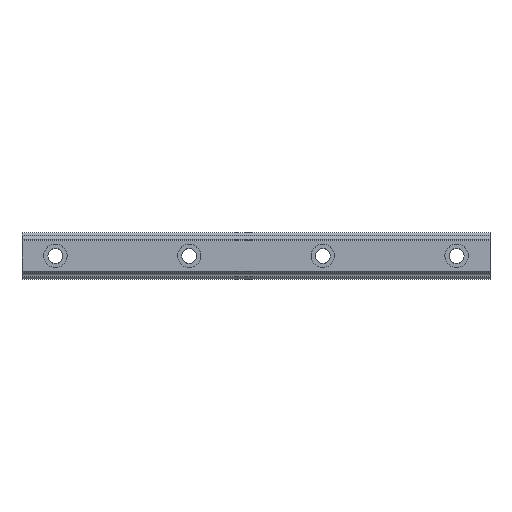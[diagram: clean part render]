
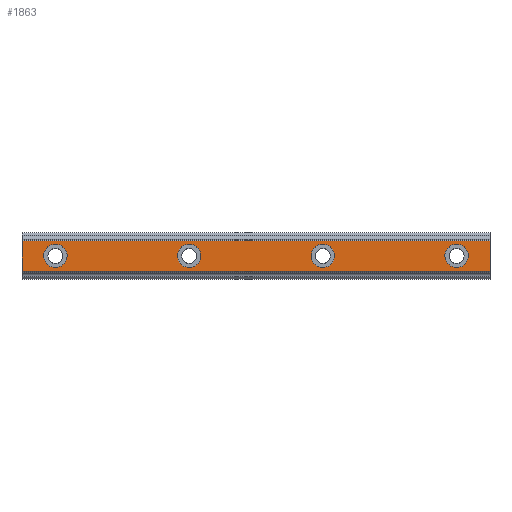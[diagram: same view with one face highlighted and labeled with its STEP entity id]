
A CAD part, top view. The second image highlights one B-rep face of the part: STEP entity #1863.
In plain terms, the highlighted planar face has unit normal (0, 0, 1).
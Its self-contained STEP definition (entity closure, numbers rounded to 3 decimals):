
#1528=CARTESIAN_POINT('POINT115',(260.,-9.21,
   26.));
#1529=VERTEX_POINT('VERTEX115',#1528);
#1536=CARTESIAN_POINT('POINT116',(-20.,-9.21,
   26.));
#1537=VERTEX_POINT('VERTEX116',#1536);
#1538=CARTESIAN_POINT('POS161',(-20.,-9.21,
   26.));
#1539=DIRECTION('DIR232',(1.,0.,0.));
#1540=VECTOR('VEC90',#1539,1.);
#1541=LINE('STRAIGHT90',#1538,#1540);
#1542=EDGE_CURVE('EDGE168',#1537,#1529,#1541,.T.);
#1574=CARTESIAN_POINT('POINT117',(-20.,9.21,
   26.));
#1575=VERTEX_POINT('VERTEX117',#1574);
#1576=CARTESIAN_POINT('POS164',(-20.,-9.21,
   26.));
#1577=DIRECTION('DIR236',(0.,1.,0.));
#1578=VECTOR('VEC92',#1577,1.);
#1579=LINE('STRAIGHT92',#1576,#1578);
#1580=EDGE_CURVE('EDGE170',#1537,#1575,#1579,.T.);
#1611=CARTESIAN_POINT('POINT118',(260.,9.21,
   26.));
#1612=VERTEX_POINT('VERTEX118',#1611);
#1621=CARTESIAN_POINT('POS168',(-20.,9.21,
   26.));
#1622=DIRECTION('DIR241',(1.,0.,0.));
#1623=VECTOR('VEC95',#1622,1.);
#1624=LINE('STRAIGHT95',#1621,#1623);
#1625=EDGE_CURVE('EDGE173',#1575,#1612,#1624,.T.);
#1653=CARTESIAN_POINT('POS170',(260.,-9.21,
   26.));
#1654=DIRECTION('DIR244',(0.,1.,0.));
#1655=VECTOR('VEC96',#1654,1.);
#1656=LINE('STRAIGHT96',#1653,#1655);
#1657=EDGE_CURVE('EDGE174',#1529,#1612,#1656,.T.);
#1680=CARTESIAN_POINT('POINT119',(87.,0.,
   26.));
#1681=VERTEX_POINT('VERTEX119',#1680);
#1689=CARTESIAN_POINT('POINT120',(73.,0.,
   26.));
#1690=VERTEX_POINT('VERTEX120',#1689);
#1697=CARTESIAN_POINT('POS174',(80.,0.,26.))
   ;
#1698=DIRECTION('DIR249',(0.,0.,-1.));
#1699=DIRECTION('DIR250',(1.,0.,0.));
#1700=AXIS2_PLACEMENT_3D('AXIS76',#1697,#1698,#1699);
#1701=CIRCLE('ELLIPSE36',#1700,7.);
#1702=EDGE_CURVE('EDGE177',#1681,#1690,#1701,.T.);
#1713=EDGE_CURVE('EDGE178',#1690,#1681,#1701,.T.);
#1720=CARTESIAN_POINT('POINT121',(167.,0.,
   26.));
#1721=VERTEX_POINT('VERTEX121',#1720);
#1729=CARTESIAN_POINT('POINT122',(153.,0.,
   26.));
#1730=VERTEX_POINT('VERTEX122',#1729);
#1737=CARTESIAN_POINT('POS178',(160.,0.,26.))
   ;
#1738=DIRECTION('DIR255',(0.,0.,-1.));
#1739=DIRECTION('DIR256',(1.,0.,0.));
#1740=AXIS2_PLACEMENT_3D('AXIS78',#1737,#1738,#1739);
#1741=CIRCLE('ELLIPSE37',#1740,7.);
#1742=EDGE_CURVE('EDGE181',#1721,#1730,#1741,.T.);
#1753=EDGE_CURVE('EDGE182',#1730,#1721,#1741,.T.);
#1760=CARTESIAN_POINT('POINT123',(247.,0.,
   26.));
#1761=VERTEX_POINT('VERTEX123',#1760);
#1769=CARTESIAN_POINT('POINT124',(233.,0.,
   26.));
#1770=VERTEX_POINT('VERTEX124',#1769);
#1777=CARTESIAN_POINT('POS182',(240.,0.,26.))
   ;
#1778=DIRECTION('DIR261',(0.,0.,-1.));
#1779=DIRECTION('DIR262',(1.,0.,0.));
#1780=AXIS2_PLACEMENT_3D('AXIS80',#1777,#1778,#1779);
#1781=CIRCLE('ELLIPSE38',#1780,7.);
#1782=EDGE_CURVE('EDGE185',#1761,#1770,#1781,.T.);
#1793=EDGE_CURVE('EDGE186',#1770,#1761,#1781,.T.);
#1825=ORIENTED_EDGE('COEDGE365',*,*,#1793,.T.);
#1826=ORIENTED_EDGE('COEDGE366',*,*,#1782,.T.);
#1827=EDGE_LOOP('NONE',(#1825,#1826));
#1828=FACE_BOUND('LOOP1',#1827,.T.);
#1829=ORIENTED_EDGE('COEDGE367',*,*,#1753,.T.);
#1830=ORIENTED_EDGE('COEDGE368',*,*,#1742,.T.);
#1831=EDGE_LOOP('NONE',(#1829,#1830));
#1832=FACE_BOUND('LOOP1',#1831,.T.);
#1833=ORIENTED_EDGE('COEDGE369',*,*,#1713,.T.);
#1834=ORIENTED_EDGE('COEDGE370',*,*,#1702,.T.);
#1835=EDGE_LOOP('NONE',(#1833,#1834));
#1836=FACE_BOUND('LOOP1',#1835,.T.);
#1837=CARTESIAN_POINT('POINT127',(-7.,0.,
   26.));
#1838=VERTEX_POINT('VERTEX127',#1837);
#1839=CARTESIAN_POINT('POINT128',(7.,0.,
   26.));
#1840=VERTEX_POINT('VERTEX128',#1839);
#1841=CARTESIAN_POINT('POS186',(0.,0.,26.))
   ;
#1842=DIRECTION('DIR269',(0.,0.,-1.));
#1843=DIRECTION('DIR270',(1.,0.,0.));
#1844=AXIS2_PLACEMENT_3D('AXIS84',#1841,#1842,#1843);
#1845=CIRCLE('ELLIPSE40',#1844,7.);
#1846=EDGE_CURVE('EDGE189',#1838,#1840,#1845,.T.);
#1847=ORIENTED_EDGE('COEDGE371',*,*,#1846,.T.);
#1848=EDGE_CURVE('EDGE190',#1840,#1838,#1845,.T.);
#1849=ORIENTED_EDGE('COEDGE372',*,*,#1848,.T.);
#1850=EDGE_LOOP('NONE',(#1847,#1849));
#1851=FACE_BOUND('LOOP1',#1850,.T.);
#1852=ORIENTED_EDGE('COEDGE373',*,*,#1657,.T.);
#1853=ORIENTED_EDGE('COEDGE374',*,*,#1625,.F.);
#1854=ORIENTED_EDGE('COEDGE375',*,*,#1580,.F.);
#1855=ORIENTED_EDGE('COEDGE376',*,*,#1542,.T.);
#1856=EDGE_LOOP('NONE',(#1852,#1853,#1854,#1855));
#1857=FACE_BOUND('LOOP1',#1856,.T.);
#1858=CARTESIAN_POINT('POS187',(-20.,-9.21,
   26.));
#1859=DIRECTION('DIR271',(0.,0.,1.));
#1860=DIRECTION('DIR272',(1.,0.,0.));
#1861=AXIS2_PLACEMENT_3D('AXIS85',#1858,#1859,#1860);
#1862=PLANE('PLANE34',#1861);
#1863=ADVANCED_FACE('FACE64',(#1828,#1832,#1836,#1851,#1857),#1862,.T.);
